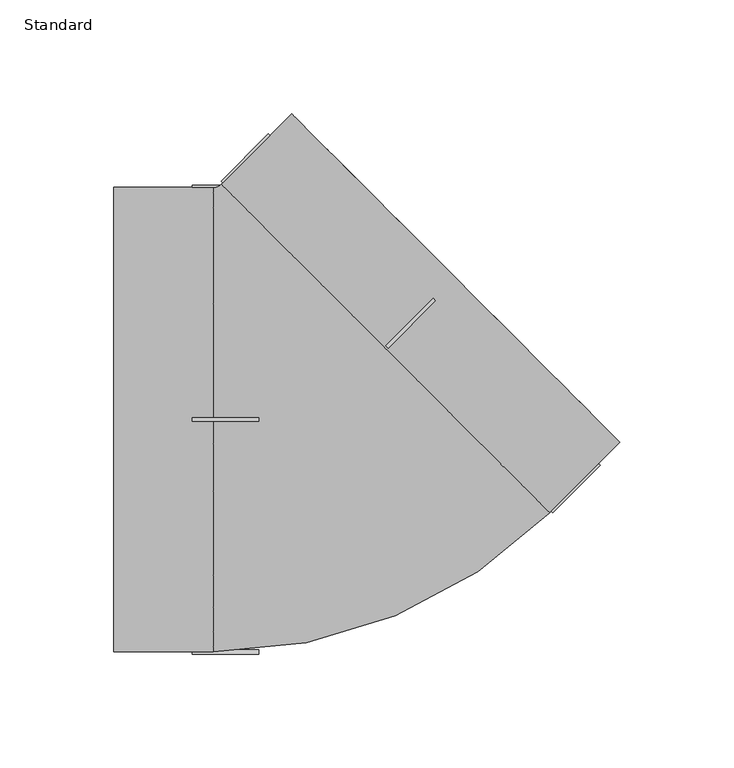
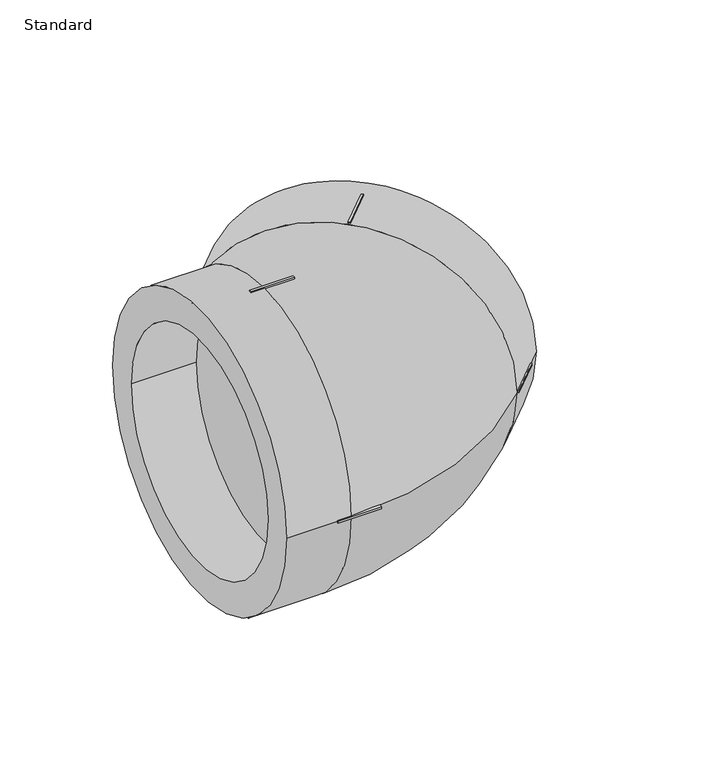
"""IFC4 building model written with IfcOpenShell, lengths in millimetres: pipe fitting geometry, EGB_VASEN_ PPR_Codo 90 WXR200_Codo 45 WXR220  : Standard."""

from ifc_helpers import new_model, si_unit, point, frame, origin, place, context, project, spatial, polyline, circle_curve, ellipse_curve, trimmed, outline, extrude, source, transform, mapped, element, save
from ifc_brep_helpers import plane_surface, cylinder_surface, revolved_surface, advanced_brep


def standard_36cb20b3(model_context):
    return source(origin(), model_context, "Body", "SolidModel", [
        advanced_brep(
        [(-88.0, -102.0, 0.0), (-88.0, 102.0, 0.0), (-88.0, -80.0, 0.0), (-88.0, 80.0, 0.0), (-44.2497834, -102.0, 0.0), (-44.2497834, 102.0, 0.0), (-44.2497834, -80.0, 0.0), (-44.2497834, 80.0, 0.0), (87.8578644, -25.2792206, 0.0), (-25.2792206, 87.8578644, 0.0), (-40.8355698, 103.4142136, 0.0), (103.4142136, -40.8355698, 0.0), (31.2893219, 31.2893219, 102.0), (31.2893219, 31.2893219, -102.0), (134.3502884, -9.8994949, 0.0), (-9.8994949, 134.3502884, 0.0), (118.7939392, 5.6568542, 0.0), (5.6568542, 118.7939392, 0.0)],
        [
            (0, 1, circle_curve(frame((-88.0, 0.0, 0.0), z_axis=(-1.0, 0.0, 0.0), x_axis=(0.0, 1.0, 0.0)), 102.0)),
            (1, 0, circle_curve(frame((-88.0, 0.0, 0.0), z_axis=(-1.0, 0.0, 0.0), x_axis=(0.0, 1.0, 0.0)), 102.0)),
            (2, 3, circle_curve(frame((-88.0, 0.0, 0.0), z_axis=(1.0, 0.0, 0.0), x_axis=(0.0, 1.0, 0.0)), 80.0)),
            (3, 2, circle_curve(frame((-88.0, 0.0, 0.0), z_axis=(1.0, 0.0, 0.0), x_axis=(0.0, 1.0, 0.0)), 80.0)),
            (0, 4),
            (4, 5, circle_curve(frame((-44.2497834, 0.0, 0.0), z_axis=(-1.0, 0.0, 0.0), x_axis=(0.0, 1.0, 0.0)), 102.0)),
            (5, 1),
            (5, 4, circle_curve(frame((-44.2497834, 0.0, 0.0), z_axis=(-1.0, 0.0, 0.0), x_axis=(0.0, 1.0, 0.0)), 102.0)),
            (2, 6),
            (6, 7, circle_curve(frame((-44.2497834, 0.0, 0.0), z_axis=(1.0, 0.0, 0.0), x_axis=(0.0, 1.0, 0.0)), 80.0)),
            (7, 3),
            (7, 6, circle_curve(frame((-44.2497834, 0.0, 0.0), z_axis=(1.0, 0.0, 0.0), x_axis=(0.0, 1.0, 0.0)), 80.0)),
            (8, 9, circle_curve(frame((31.2893219, 31.2893219, 0.0), z_axis=(0.7071067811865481, 0.707106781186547, 0.0), x_axis=(-0.707106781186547, 0.7071067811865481, 0.0)), 80.0)),
            (9, 8, circle_curve(frame((31.2893219, 31.2893219, 0.0), z_axis=(0.7071067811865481, 0.707106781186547, 0.0), x_axis=(-0.707106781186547, 0.7071067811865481, 0.0)), 80.0)),
            (10, 5, circle_curve(frame((-44.2497834, 106.8284271, 0.0), z_axis=(0.0, 0.0, -1.0), x_axis=(0.0, -1.0, 0.0)), 4.8284271)),
            (4, 11, circle_curve(frame((-44.2497834, 106.8284271, 0.0), z_axis=(0.0, 0.0, 1.0), x_axis=(0.0, -1.0, 0.0)), 208.8284271)),
            (11, 12, circle_curve(frame((31.2893219, 31.2893219, 0.0), z_axis=(-0.7071067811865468, -0.7071067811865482, 0.0), x_axis=(-0.7071067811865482, 0.7071067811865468, 0.0)), 102.0)),
            (12, 10, circle_curve(frame((31.2893219, 31.2893219, 0.0), z_axis=(-0.7071067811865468, -0.7071067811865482, 0.0), x_axis=(-0.7071067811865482, 0.7071067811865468, 0.0)), 102.0)),
            (10, 13, circle_curve(frame((31.2893219, 31.2893219, 0.0), z_axis=(-0.7071067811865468, -0.7071067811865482, 0.0), x_axis=(-0.7071067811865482, 0.7071067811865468, 0.0)), 102.0)),
            (13, 11, circle_curve(frame((31.2893219, 31.2893219, 0.0), z_axis=(-0.7071067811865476, -0.7071067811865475, 0.0), x_axis=(-0.7071067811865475, 0.7071067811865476, 0.0)), 102.0)),
            (14, 15, circle_curve(frame((62.2253967, 62.2253967, 0.0), z_axis=(0.7071067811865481, 0.707106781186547, 0.0), x_axis=(-0.707106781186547, 0.7071067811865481, 0.0)), 102.0)),
            (15, 14, circle_curve(frame((62.2253967, 62.2253967, 0.0), z_axis=(0.7071067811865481, 0.707106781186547, 0.0), x_axis=(-0.707106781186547, 0.7071067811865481, 0.0)), 102.0)),
            (16, 17, circle_curve(frame((62.2253967, 62.2253967, 0.0), z_axis=(-0.7071067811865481, -0.707106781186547, 0.0), x_axis=(-0.707106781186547, 0.7071067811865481, 0.0)), 80.0)),
            (17, 16, circle_curve(frame((62.2253967, 62.2253967, 0.0), z_axis=(-0.7071067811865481, -0.707106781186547, 0.0), x_axis=(-0.707106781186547, 0.7071067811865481, 0.0)), 80.0)),
            (15, 10),
            (11, 14),
            (17, 9),
            (8, 16),
        ],
        [
            plane_surface(frame((-88.0, 0.0, 0.0), z_axis=(-1.0, 0.0, 0.0), x_axis=(0.0, 0.0, 1.0))),
            cylinder_surface(frame((-88.0, 0.0, 0.0), z_axis=(-1.0, 0.0, 0.0), x_axis=(0.0, 1.0, 0.0)), 102.0),
            revolved_surface(polyline([(-44.2497834, 80.0, 0.0), (-88.0, 80.0, 0.0)]), (-88.0, 0.0, 0.0), (1.0, 0.0, 0.0)),
            plane_surface(frame((-44.2497834, 0.0, 0.0), z_axis=(-1.0, 0.0, 0.0), x_axis=(0.0, 0.0, 1.0))),
            plane_surface(frame((31.2893219, 31.2893219, 0.0), z_axis=(0.7071067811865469, 0.7071067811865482, 0.0), x_axis=(0.0, 0.0, 1.0))),
            revolved_surface(trimmed(ellipse_curve(frame((-44.2497834, 0.0, 0.0), z_axis=(-1.0, 0.0, 0.0), x_axis=(0.0, 1.0, 0.0)), 102.0, 102.0), [point((-44.2497834, -102.0, 0.0))], [point((-44.2497834, 102.0, 0.0))], True, "CARTESIAN"), (-44.2497834, 106.8284271, 0.0), (0.0, 0.0, 1.0)),
            revolved_surface(trimmed(ellipse_curve(frame((-44.2497834, 0.0, 0.0), z_axis=(-1.0, 0.0, 0.0), x_axis=(0.0, 1.0, 0.0)), 102.0, 102.0), [point((-44.2497834, 102.0, 0.0))], [point((-44.2497834, -102.0, 0.0))], True, "CARTESIAN"), (-44.2497834, 106.8284271, 0.0), (0.0, 0.0, 1.0)),
            plane_surface(frame((62.2253967, 62.2253967, 0.0), z_axis=(0.7071067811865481, 0.707106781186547, 0.0), x_axis=(0.0, 0.0, 1.0))),
            cylinder_surface(frame((31.2893219, 31.2893219, 0.0), z_axis=(-0.7071067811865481, -0.707106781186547, 0.0), x_axis=(-0.707106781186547, 0.7071067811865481, 0.0)), 102.0),
            revolved_surface(polyline([(5.656854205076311, 118.79393919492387, 0.0), (-25.27922059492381, 87.8578643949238, 0.0)]), (31.2893219, 31.2893219, 0.0), (0.7071067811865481, 0.707106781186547, 0.0)),
        ],
        [
            (0, [[1, 2], [3, 4]]),
            (1, [[-1, 5, 6, 7]]),
            (1, [[-2, -7, 8, -5]]),
            (2, [[-3, 9, 10, 11]]),
            (2, [[-4, -11, 12, -9]]),
            (3, [[-10, -12]]),
            (4, [[13, 14]]),
            (5, [[15, -6, 16, 17, 18]]),
            (6, [[-15, 19, 20, -16, -8]]),
            (7, [[21, 22], [23, 24]]),
            (8, [[-22, 25, -18, -17, 26]]),
            (8, [[-21, -26, -20, -19, -25]]),
            (9, [[-24, 27, -13, 28]]),
            (9, [[-23, -28, -14, -27]]),
        ],
    ),
        extrude(outline(polyline([(32.5267587, 31.4660986), (31.4660986, 32.5267587), (52.2550379, 53.3156981), (53.3156981, 52.2550379), (32.5267587, 31.4660986)])), frame((0.0, 0.0, 101.0), z_axis=(0.0, 0.0, 1.0), x_axis=(1.0, 0.0, 0.0)), (0.0, 0.0, 1.0), 2.0),
        extrude(outline(polyline([(-39.4213562, 103.4142136), (-40.8355698, 104.8284271), (-20.0466304, 125.6173665), (-18.6324169, 124.2031529), (-39.4213562, 103.4142136)])), frame((0.0, 0.0, -0.75), z_axis=(0.0, 0.0, 1.0), x_axis=(1.0, 0.0, 0.0)), (0.0, 0.0, 1.0), 1.5),
        extrude(outline(polyline([(104.8284271, -40.8355698), (103.4142136, -39.4213562), (124.2031529, -18.6324169), (125.6173665, -20.0466304), (104.8284271, -40.8355698)])), frame((0.0, 0.0, -0.75), z_axis=(0.0, 0.0, 1.0), x_axis=(1.0, 0.0, 0.0)), (0.0, 0.0, 1.0), 1.5),
        extrude(outline(polyline([(32.5267587, 31.4660986), (31.4660986, 32.5267587), (52.2550379, 53.3156981), (53.3156981, 52.2550379), (32.5267587, 31.4660986)])), frame((0.0, 0.0, -103.0), z_axis=(0.0, 0.0, 1.0), x_axis=(1.0, 0.0, 0.0)), (0.0, 0.0, 1.0), 2.0),
        extrude(outline(polyline([(-24.2497834, 0.75), (-24.2497834, -0.75), (-53.6497834, -0.75), (-53.6497834, 0.75), (-24.2497834, 0.75)])), frame((0.0, 0.0, 101.0), z_axis=(0.0, 0.0, 1.0), x_axis=(1.0, 0.0, 0.0)), (0.0, 0.0, 1.0), 2.0),
        extrude(outline(polyline([(-24.2497834, 0.75), (-24.2497834, -0.75), (-53.6497834, -0.75), (-53.6497834, 0.75), (-24.2497834, 0.75)])), frame((0.0, 0.0, -103.0), z_axis=(0.0, 0.0, 1.0), x_axis=(1.0, 0.0, 0.0)), (0.0, 0.0, 1.0), 2.0),
        extrude(outline(polyline([(-24.2497834, 103.0), (-24.2497834, 101.0), (-53.6497834, 101.0), (-53.6497834, 103.0), (-24.2497834, 103.0)])), frame((0.0, 0.0, -0.75), z_axis=(0.0, 0.0, 1.0), x_axis=(1.0, 0.0, 0.0)), (0.0, 0.0, 1.0), 1.5),
        extrude(outline(polyline([(-24.2497834, -101.0), (-24.2497834, -103.0), (-53.6497834, -103.0), (-53.6497834, -101.0), (-24.2497834, -101.0)])), frame((0.0, 0.0, -0.75), z_axis=(0.0, 0.0, 1.0), x_axis=(1.0, 0.0, 0.0)), (0.0, 0.0, 1.0), 1.5),
    ])


if __name__ == "__main__":
    model = new_model("IFC4")
    model_context = context("Model", 3, world=origin())
    ifc_project = project(units=[si_unit("LENGTHUNIT", "METRE", prefix="MILLI")], contexts=[model_context])
    site = spatial("IfcSite", under=ifc_project)
    building = spatial("IfcBuilding", under=site)
    placement = place(None, origin())
    standard_shape = standard_36cb20b3(model_context)
    element("IfcPipeFitting", 1, ObjectType="EGB_VASEN_ PPR_Codo 90 WXR200_Codo 45 WXR220  : Standard", at=placement, inside=building, context=model_context, shape_type="MappedRepresentation", body=[
        mapped(standard_shape, transform((0.0, 0.0, 0.0), x_axis=(1.0, 0.0, 0.0), y_axis=(0.0, 1.0, 0.0), z_axis=(0.0, 0.0, 1.0))),
    ])
    save(model, "model.ifc")
